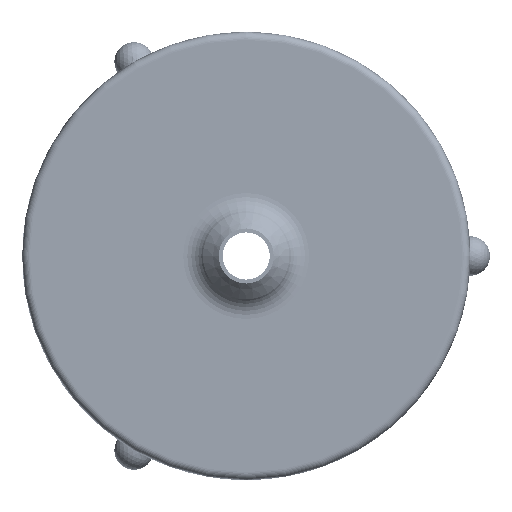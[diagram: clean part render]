
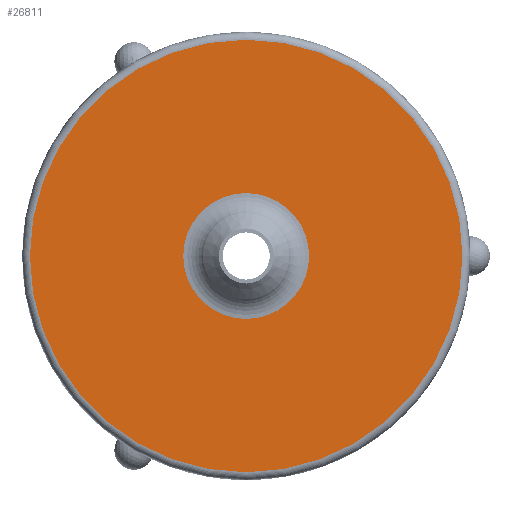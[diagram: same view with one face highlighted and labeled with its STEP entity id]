
A CAD part, front view. The second image highlights one B-rep face of the part: STEP entity #26811.
In plain terms, the highlighted planar face has unit normal (0, -1, 0).
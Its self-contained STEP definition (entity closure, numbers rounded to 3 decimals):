
#44=PLANE('',#28354);
#664=FACE_BOUND('',#4081,.T.);
#2252=FACE_OUTER_BOUND('',#4080,.T.);
#4080=EDGE_LOOP('',(#19335));
#4081=EDGE_LOOP('',(#19336));
#5860=CIRCLE('',#28352,8.);
#5862=CIRCLE('',#28355,27.5);
#12232=VERTEX_POINT('',#46454);
#12233=VERTEX_POINT('',#46459);
#15022=EDGE_CURVE('',#12232,#12232,#5860,.T.);
#15024=EDGE_CURVE('',#12233,#12233,#5862,.T.);
#19335=ORIENTED_EDGE('',*,*,#15024,.F.);
#19336=ORIENTED_EDGE('',*,*,#15022,.F.);
#26811=ADVANCED_FACE('',(#2252,#664),#44,.F.);
#28352=AXIS2_PLACEMENT_3D('',#46456,#29584,#29585);
#28354=AXIS2_PLACEMENT_3D('',#46458,#29588,#29589);
#28355=AXIS2_PLACEMENT_3D('',#46460,#29590,#29591);
#29584=DIRECTION('center_axis',(0.,-1.,0.));
#29585=DIRECTION('ref_axis',(1.,0.,0.));
#29588=DIRECTION('center_axis',(0.,1.,0.));
#29589=DIRECTION('ref_axis',(1.,0.,0.));
#29590=DIRECTION('center_axis',(0.,1.,0.));
#29591=DIRECTION('ref_axis',(1.,0.,0.));
#46454=CARTESIAN_POINT('',(0.,0.,-8.));
#46456=CARTESIAN_POINT('Origin',(0.,0.,0.));
#46458=CARTESIAN_POINT('Origin',(0.,0.,0.));
#46459=CARTESIAN_POINT('',(0.,0.,-27.5));
#46460=CARTESIAN_POINT('Origin',(0.,0.,0.));
